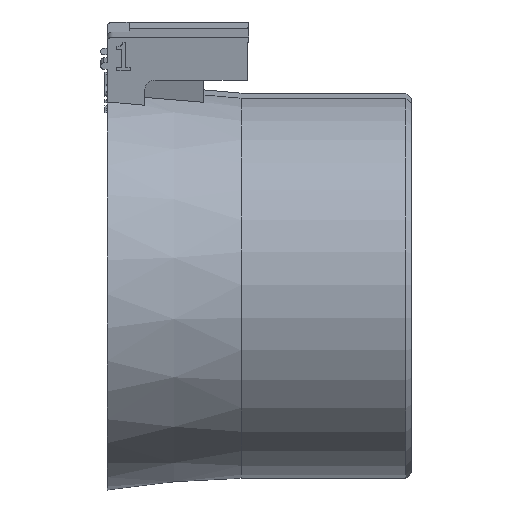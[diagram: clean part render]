
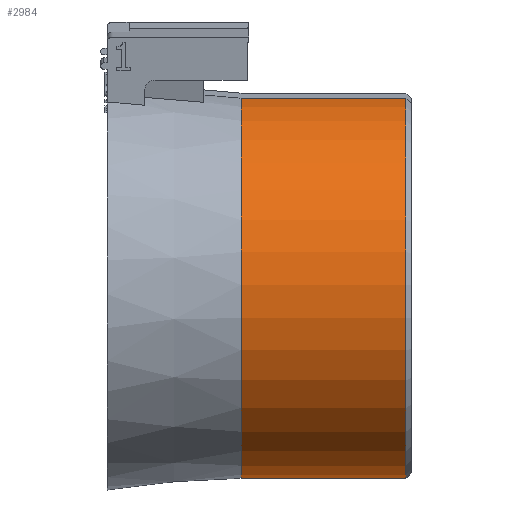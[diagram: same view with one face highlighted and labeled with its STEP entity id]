
A CAD part, front view. The second image highlights one B-rep face of the part: STEP entity #2984.
In plain terms, the highlighted cylindrical face has radius 17.5 mm (diameter 35 mm), a partial arc.
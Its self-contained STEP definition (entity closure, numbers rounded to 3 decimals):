
#49=CYLINDRICAL_SURFACE('',#3155,17.5);
#85=CIRCLE('',#3156,17.5);
#86=CIRCLE('',#3157,17.5);
#418=FACE_OUTER_BOUND('',#589,.T.);
#589=EDGE_LOOP('',(#2544,#2545,#2546,#2547));
#851=LINE('',#5093,#1134);
#869=LINE('',#5133,#1152);
#1134=VECTOR('',#3653,10.);
#1152=VECTOR('',#3681,10.);
#1429=VERTEX_POINT('',#5090);
#1430=VERTEX_POINT('',#5092);
#1446=VERTEX_POINT('',#5131);
#1447=VERTEX_POINT('',#5132);
#1816=EDGE_CURVE('',#1430,#1429,#851,.T.);
#1836=EDGE_CURVE('',#1446,#1447,#869,.T.);
#1837=EDGE_CURVE('',#1430,#1446,#85,.T.);
#1838=EDGE_CURVE('',#1447,#1429,#86,.T.);
#2544=ORIENTED_EDGE('',*,*,#1836,.F.);
#2545=ORIENTED_EDGE('',*,*,#1837,.F.);
#2546=ORIENTED_EDGE('',*,*,#1816,.T.);
#2547=ORIENTED_EDGE('',*,*,#1838,.F.);
#2984=ADVANCED_FACE('',(#418),#49,.T.);
#3155=AXIS2_PLACEMENT_3D('',#5130,#3679,#3680);
#3156=AXIS2_PLACEMENT_3D('',#5134,#3682,#3683);
#3157=AXIS2_PLACEMENT_3D('',#5135,#3684,#3685);
#3653=DIRECTION('',(-1.,0.,0.));
#3679=DIRECTION('center_axis',(-1.,0.,0.));
#3680=DIRECTION('ref_axis',(0.,-0.985,-0.174));
#3681=DIRECTION('',(-1.,0.,0.));
#3682=DIRECTION('center_axis',(1.,0.,0.));
#3683=DIRECTION('ref_axis',(0.,0.985,0.174));
#3684=DIRECTION('center_axis',(-1.,0.,0.));
#3685=DIRECTION('ref_axis',(0.,-0.985,-0.174));
#5090=CARTESIAN_POINT('',(11.43,-5.366,17.031));
#5092=CARTESIAN_POINT('',(26.5,-5.366,17.031));
#5093=CARTESIAN_POINT('',(19.215,-5.366,17.031));
#5130=CARTESIAN_POINT('Origin',(19.215,-2.327,-0.204));
#5131=CARTESIAN_POINT('',(26.5,0.358,-17.496));
#5132=CARTESIAN_POINT('',(11.43,0.358,-17.496));
#5133=CARTESIAN_POINT('',(19.215,0.358,-17.496));
#5134=CARTESIAN_POINT('Origin',(26.5,-2.327,-0.204));
#5135=CARTESIAN_POINT('Origin',(11.43,-2.327,-0.204));
